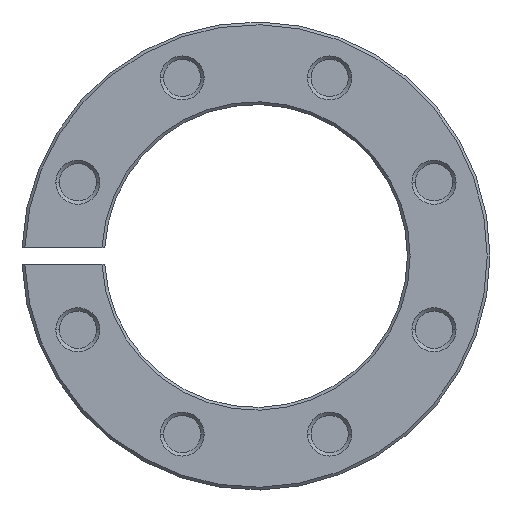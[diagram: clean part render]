
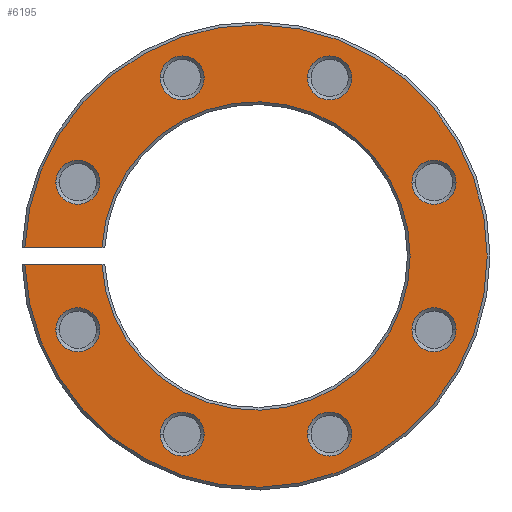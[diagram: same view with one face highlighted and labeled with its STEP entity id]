
A CAD part, left-side view. The second image highlights one B-rep face of the part: STEP entity #6195.
In plain terms, the highlighted planar face has unit normal (-1, 0, 0).
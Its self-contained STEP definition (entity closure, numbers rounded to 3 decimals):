
#1844=CARTESIAN_POINT('',(-33.,0.,0.));
#1845=DIRECTION('',(-1.,0.,0.));
#1846=DIRECTION('',(0.,0.999,-0.036));
#1847=AXIS2_PLACEMENT_3D('',#1844,#1845,#1846);
#1880=CARTESIAN_POINT('',(-33.,32.336,
-13.394));
#1881=DIRECTION('',(1.,0.,0.));
#1882=DIRECTION('',(0.,-1.,0.));
#1883=AXIS2_PLACEMENT_3D('',#1880,#1881,#1882);
#1888=CARTESIAN_POINT('',(-33.,32.336,
-13.394));
#1889=DIRECTION('',(1.,0.,0.));
#1890=DIRECTION('',(0.,1.,0.));
#1891=AXIS2_PLACEMENT_3D('',#1888,#1889,#1890);
#1896=CARTESIAN_POINT('',(-33.,13.394,
-32.336));
#1897=DIRECTION('',(1.,0.,0.));
#1898=DIRECTION('',(0.,-1.,0.));
#1899=AXIS2_PLACEMENT_3D('',#1896,#1897,#1898);
#1904=CARTESIAN_POINT('',(-33.,13.394,
-32.336));
#1905=DIRECTION('',(1.,0.,0.));
#1906=DIRECTION('',(0.,1.,0.));
#1907=AXIS2_PLACEMENT_3D('',#1904,#1905,#1906);
#1912=CARTESIAN_POINT('',(-33.,-13.394,
-32.336));
#1913=DIRECTION('',(1.,0.,0.));
#1914=DIRECTION('',(0.,-1.,0.));
#1915=AXIS2_PLACEMENT_3D('',#1912,#1913,#1914);
#1920=CARTESIAN_POINT('',(-33.,-13.394,
-32.336));
#1921=DIRECTION('',(1.,0.,0.));
#1922=DIRECTION('',(0.,1.,0.));
#1923=AXIS2_PLACEMENT_3D('',#1920,#1921,#1922);
#1928=CARTESIAN_POINT('',(-33.,-32.336,
-13.394));
#1929=DIRECTION('',(1.,0.,0.));
#1930=DIRECTION('',(0.,-1.,0.));
#1931=AXIS2_PLACEMENT_3D('',#1928,#1929,#1930);
#1936=CARTESIAN_POINT('',(-33.,-32.336,
-13.394));
#1937=DIRECTION('',(1.,0.,0.));
#1938=DIRECTION('',(0.,1.,0.));
#1939=AXIS2_PLACEMENT_3D('',#1936,#1937,#1938);
#1944=CARTESIAN_POINT('',(-33.,-32.336,
13.394));
#1945=DIRECTION('',(1.,0.,0.));
#1946=DIRECTION('',(0.,-1.,0.));
#1947=AXIS2_PLACEMENT_3D('',#1944,#1945,#1946);
#1952=CARTESIAN_POINT('',(-33.,-32.336,
13.394));
#1953=DIRECTION('',(1.,0.,0.));
#1954=DIRECTION('',(0.,1.,0.));
#1955=AXIS2_PLACEMENT_3D('',#1952,#1953,#1954);
#1960=CARTESIAN_POINT('',(-33.,-13.394,
32.336));
#1961=DIRECTION('',(1.,0.,0.));
#1962=DIRECTION('',(0.,-1.,0.));
#1963=AXIS2_PLACEMENT_3D('',#1960,#1961,#1962);
#1968=CARTESIAN_POINT('',(-33.,-13.394,
32.336));
#1969=DIRECTION('',(1.,0.,0.));
#1970=DIRECTION('',(0.,1.,0.));
#1971=AXIS2_PLACEMENT_3D('',#1968,#1969,#1970);
#1976=CARTESIAN_POINT('',(-33.,13.394,32.336));
#1977=DIRECTION('',(1.,0.,0.));
#1978=DIRECTION('',(0.,-1.,0.));
#1979=AXIS2_PLACEMENT_3D('',#1976,#1977,#1978);
#1984=CARTESIAN_POINT('',(-33.,13.394,32.336));
#1985=DIRECTION('',(1.,0.,0.));
#1986=DIRECTION('',(0.,1.,0.));
#1987=AXIS2_PLACEMENT_3D('',#1984,#1985,#1986);
#1992=CARTESIAN_POINT('',(-33.,32.336,13.394));
#1993=DIRECTION('',(1.,0.,0.));
#1994=DIRECTION('',(0.,-1.,0.));
#1995=AXIS2_PLACEMENT_3D('',#1992,#1993,#1994);
#2000=CARTESIAN_POINT('',(-33.,32.336,13.394));
#2001=DIRECTION('',(1.,0.,0.));
#2002=DIRECTION('',(0.,1.,0.));
#2003=AXIS2_PLACEMENT_3D('',#2000,#2001,#2002);
#2008=DIRECTION('',(0.,-1.,0.));
#2009=VECTOR('',#2008,14.013);
#2010=CARTESIAN_POINT('',(-33.,41.973,-1.5));
#2011=LINE('',#2010,#2009);
#2015=DIRECTION('',(0.,-1.,0.));
#2016=VECTOR('',#2015,14.013);
#2017=CARTESIAN_POINT('',(-33.,41.973,1.5));
#2018=LINE('',#2017,#2016);
#2520=CARTESIAN_POINT('',(-33.,0.,0.));
#2521=DIRECTION('',(1.,0.,0.));
#2522=DIRECTION('',(0.,0.999,0.054));
#2523=AXIS2_PLACEMENT_3D('',#2520,#2521,#2522);
#3788=CARTESIAN_POINT('',(-33.,28.336,
-13.394));
#3789=CARTESIAN_POINT('',(-33.,36.336,
-13.394));
#3790=VERTEX_POINT('',#3788);
#3791=VERTEX_POINT('',#3789);
#3848=CARTESIAN_POINT('',(-33.,9.394,
-32.336));
#3849=CARTESIAN_POINT('',(-33.,17.394,
-32.336));
#3850=VERTEX_POINT('',#3848);
#3851=VERTEX_POINT('',#3849);
#3856=CARTESIAN_POINT('',(-33.,-17.394,
-32.336));
#3857=CARTESIAN_POINT('',(-33.,-9.394,
-32.336));
#3858=VERTEX_POINT('',#3856);
#3859=VERTEX_POINT('',#3857);
#3864=CARTESIAN_POINT('',(-33.,-36.336,
-13.394));
#3865=CARTESIAN_POINT('',(-33.,-28.336,
-13.394));
#3866=VERTEX_POINT('',#3864);
#3867=VERTEX_POINT('',#3865);
#3872=CARTESIAN_POINT('',(-33.,-36.336,
13.394));
#3873=CARTESIAN_POINT('',(-33.,-28.336,
13.394));
#3874=VERTEX_POINT('',#3872);
#3875=VERTEX_POINT('',#3873);
#3880=CARTESIAN_POINT('',(-33.,-17.394,
32.336));
#3881=CARTESIAN_POINT('',(-33.,-9.394,
32.336));
#3882=VERTEX_POINT('',#3880);
#3883=VERTEX_POINT('',#3881);
#3888=CARTESIAN_POINT('',(-33.,9.394,32.336));
#3889=CARTESIAN_POINT('',(-33.,17.394,32.336));
#3890=VERTEX_POINT('',#3888);
#3891=VERTEX_POINT('',#3889);
#4236=CARTESIAN_POINT('',(-33.,28.336,13.394));
#4237=CARTESIAN_POINT('',(-33.,36.336,13.394));
#4238=VERTEX_POINT('',#4236);
#4239=VERTEX_POINT('',#4237);
#4304=CARTESIAN_POINT('',(-33.,41.973,-1.5));
#4305=CARTESIAN_POINT('',(-33.,27.96,-1.5));
#4306=VERTEX_POINT('',#4304);
#4307=VERTEX_POINT('',#4305);
#4308=CARTESIAN_POINT('',(-33.,41.973,1.5));
#4309=CARTESIAN_POINT('',(-33.,27.96,1.5));
#4310=VERTEX_POINT('',#4308);
#4311=VERTEX_POINT('',#4309);
#6135=CARTESIAN_POINT('',(-33.,0.,0.));
#6136=DIRECTION('',(1.,0.,0.));
#6137=DIRECTION('',(0.,0.,-1.));
#6138=AXIS2_PLACEMENT_3D('',#6135,#6136,#6137);
#6139=PLANE('',#6138);
#6140=ORIENTED_EDGE('',*,*,#5950,.T.);
#6142=ORIENTED_EDGE('',*,*,#6141,.F.);
#6143=ORIENTED_EDGE('',*,*,#6023,.F.);
#6144=ORIENTED_EDGE('',*,*,#6115,.F.);
#6145=EDGE_LOOP('',(#6140,#6142,#6143,#6144));
#6146=FACE_OUTER_BOUND('',#6145,.F.);
#6148=ORIENTED_EDGE('',*,*,#6147,.F.);
#6150=ORIENTED_EDGE('',*,*,#6149,.F.);
#6151=EDGE_LOOP('',(#6148,#6150));
#6152=FACE_BOUND('',#6151,.F.);
#6154=ORIENTED_EDGE('',*,*,#6153,.F.);
#6156=ORIENTED_EDGE('',*,*,#6155,.F.);
#6157=EDGE_LOOP('',(#6154,#6156));
#6158=FACE_BOUND('',#6157,.F.);
#6160=ORIENTED_EDGE('',*,*,#6159,.F.);
#6162=ORIENTED_EDGE('',*,*,#6161,.F.);
#6163=EDGE_LOOP('',(#6160,#6162));
#6164=FACE_BOUND('',#6163,.F.);
#6166=ORIENTED_EDGE('',*,*,#6165,.F.);
#6168=ORIENTED_EDGE('',*,*,#6167,.F.);
#6169=EDGE_LOOP('',(#6166,#6168));
#6170=FACE_BOUND('',#6169,.F.);
#6172=ORIENTED_EDGE('',*,*,#6171,.F.);
#6174=ORIENTED_EDGE('',*,*,#6173,.F.);
#6175=EDGE_LOOP('',(#6172,#6174));
#6176=FACE_BOUND('',#6175,.F.);
#6178=ORIENTED_EDGE('',*,*,#6177,.F.);
#6180=ORIENTED_EDGE('',*,*,#6179,.F.);
#6181=EDGE_LOOP('',(#6178,#6180));
#6182=FACE_BOUND('',#6181,.F.);
#6184=ORIENTED_EDGE('',*,*,#6183,.F.);
#6186=ORIENTED_EDGE('',*,*,#6185,.F.);
#6187=EDGE_LOOP('',(#6184,#6186));
#6188=FACE_BOUND('',#6187,.F.);
#6190=ORIENTED_EDGE('',*,*,#6189,.F.);
#6192=ORIENTED_EDGE('',*,*,#6191,.F.);
#6193=EDGE_LOOP('',(#6190,#6192));
#6194=FACE_BOUND('',#6193,.F.);
#6195=ADVANCED_FACE('',(#6146,#6152,#6158,#6164,#6170,#6176,#6182,#6188,#6194),
#6139,.F.);
#1848=CIRCLE('',#1847,42.);
#1884=CIRCLE('',#1883,4.);
#1892=CIRCLE('',#1891,4.);
#1900=CIRCLE('',#1899,4.);
#1908=CIRCLE('',#1907,4.);
#1916=CIRCLE('',#1915,4.);
#1924=CIRCLE('',#1923,4.);
#1932=CIRCLE('',#1931,4.);
#1940=CIRCLE('',#1939,4.);
#1948=CIRCLE('',#1947,4.);
#1956=CIRCLE('',#1955,4.);
#1964=CIRCLE('',#1963,4.);
#1972=CIRCLE('',#1971,4.);
#1980=CIRCLE('',#1979,4.);
#1988=CIRCLE('',#1987,4.);
#1996=CIRCLE('',#1995,4.);
#2004=CIRCLE('',#2003,4.);
#2524=CIRCLE('',#2523,28.);
#5950=EDGE_CURVE('',#4306,#4307,#2011,.T.);
#6023=EDGE_CURVE('',#4310,#4311,#2018,.T.);
#6115=EDGE_CURVE('',#4306,#4310,#1848,.T.);
#6141=EDGE_CURVE('',#4311,#4307,#2524,.T.);
#6147=EDGE_CURVE('',#3790,#3791,#1884,.T.);
#6149=EDGE_CURVE('',#3791,#3790,#1892,.T.);
#6153=EDGE_CURVE('',#3850,#3851,#1900,.T.);
#6155=EDGE_CURVE('',#3851,#3850,#1908,.T.);
#6159=EDGE_CURVE('',#3858,#3859,#1916,.T.);
#6161=EDGE_CURVE('',#3859,#3858,#1924,.T.);
#6165=EDGE_CURVE('',#3866,#3867,#1932,.T.);
#6167=EDGE_CURVE('',#3867,#3866,#1940,.T.);
#6171=EDGE_CURVE('',#3874,#3875,#1948,.T.);
#6173=EDGE_CURVE('',#3875,#3874,#1956,.T.);
#6177=EDGE_CURVE('',#3882,#3883,#1964,.T.);
#6179=EDGE_CURVE('',#3883,#3882,#1972,.T.);
#6183=EDGE_CURVE('',#3890,#3891,#1980,.T.);
#6185=EDGE_CURVE('',#3891,#3890,#1988,.T.);
#6189=EDGE_CURVE('',#4238,#4239,#1996,.T.);
#6191=EDGE_CURVE('',#4239,#4238,#2004,.T.);
